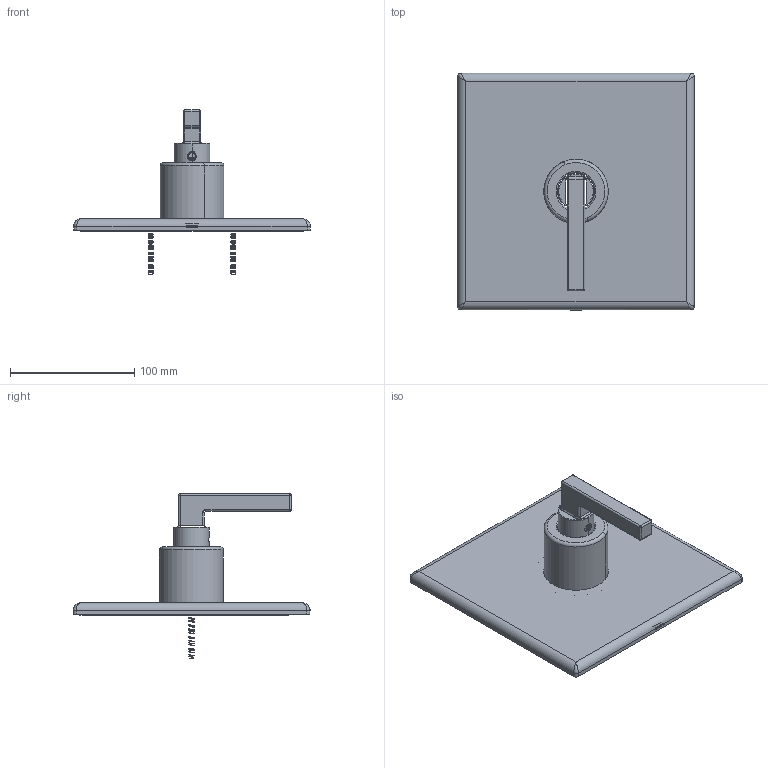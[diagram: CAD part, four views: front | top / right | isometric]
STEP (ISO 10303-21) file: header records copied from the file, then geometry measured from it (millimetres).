
FILE_DESCRIPTION (( 'STEP AP214' ), '1' );
FILE_NAME ('3690TRM.STEP', '2025-01-15T12:03:44', ( '' ), ( '' ), 'SwSTEP 2.0', 'SolidWorks 2023', '' );
FILE_SCHEMA (( 'AUTOMOTIVE_DESIGN' ));
Length unit declared in the file: inch
Products named in the file (1): 3690TRM
Bounding box: 190.5 x 191.39 x 132.29 mm (x, y, z)
Surface area: 147988.2 mm2 (no closed solid volume)
Topology: 0 solids, 56 shells, 566 faces, 1661 edges, 1124 vertices
Faces by surface type: cylinder 262, plane 225, cone 56, bspline 13, torus 8, sphere 2
Entity records: 22916 total; most frequent: CARTESIAN_POINT 8171, DIRECTION 3113, ORIENTED_EDGE 2747, EDGE_CURVE 1651, VERTEX_POINT 1124, AXIS2_PLACEMENT_3D 1119, VECTOR 875, LINE 875
